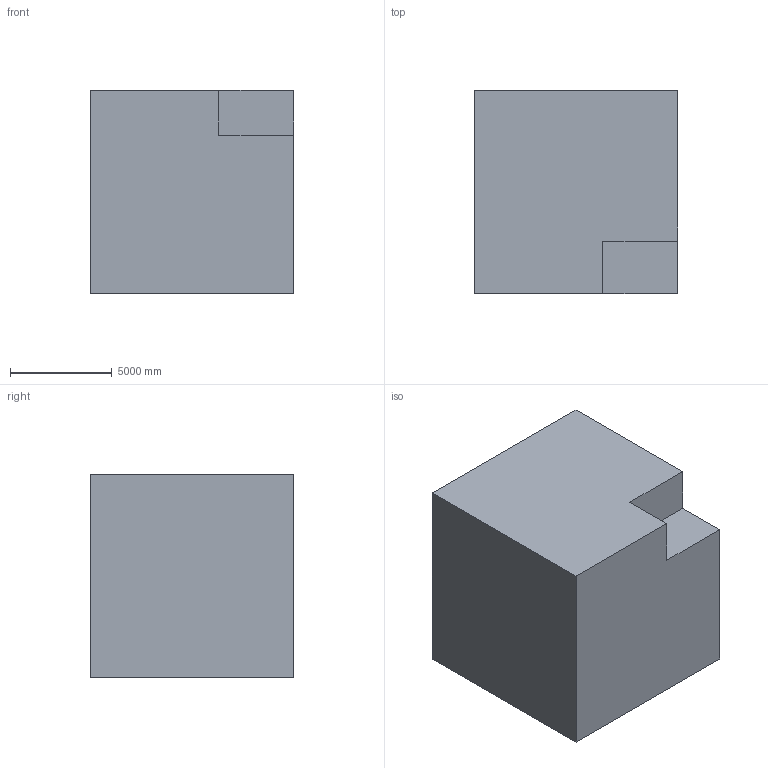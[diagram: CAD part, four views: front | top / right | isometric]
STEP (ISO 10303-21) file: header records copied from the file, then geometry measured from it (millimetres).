
FILE_DESCRIPTION (( 'STEP AP203' ), '1' );
FILE_NAME ('125.STEP', '2022-09-05T15:37:32', ( 'user' ), ( '' ), 'SwSTEP 2.0', 'SolidWorks 2021', '' );
FILE_SCHEMA (( 'CONFIG_CONTROL_DESIGN' ));
Length unit declared in the file: centimetre
Products named in the file (1): 125
Bounding box: 10000 x 10000 x 10000 mm (x, y, z)
Volume: 908799960887.3 mm3; surface area: 702221912.9 mm2
Topology: 1 solids, 1 shells, 19 faces, 45 edges, 30 vertices
Faces by surface type: plane 19
Entity records: 616 total; most frequent: CARTESIAN_POINT 95, ORIENTED_EDGE 90, DIRECTION 85, LINE 45, EDGE_CURVE 45, VECTOR 45, VERTEX_POINT 30, EDGE_LOOP 21
